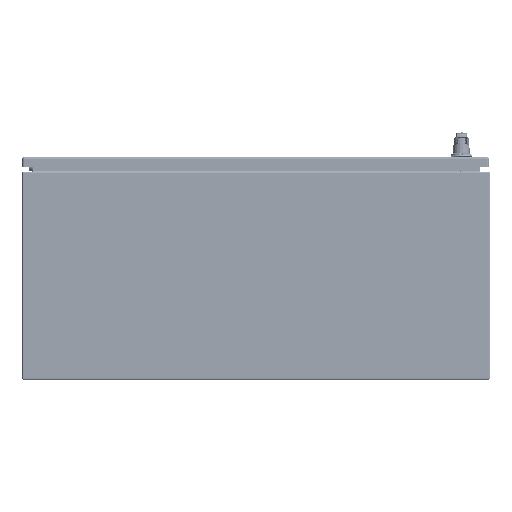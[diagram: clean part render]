
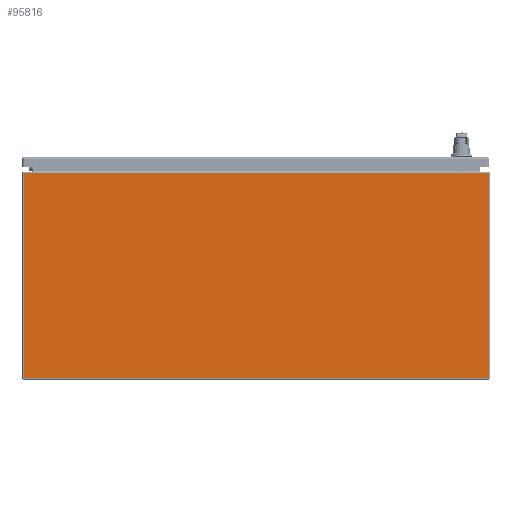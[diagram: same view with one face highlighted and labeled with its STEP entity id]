
A CAD part, front view. The second image highlights one B-rep face of the part: STEP entity #95816.
In plain terms, the highlighted planar face has unit normal (0, -1, 0).
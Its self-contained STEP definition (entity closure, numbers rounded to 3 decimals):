
#8486=LINE('',#136460,#14737);
#8489=LINE('',#136482,#14740);
#8490=LINE('',#136484,#14741);
#8491=LINE('',#136485,#14742);
#14737=VECTOR('',#112021,0.394);
#14740=VECTOR('',#112052,0.394);
#14741=VECTOR('',#112053,0.394);
#14742=VECTOR('',#112054,0.394);
#22571=FACE_OUTER_BOUND('',#28470,.T.);
#28470=EDGE_LOOP('',(#64076,#64077,#64078,#64079));
#39139=VERTEX_POINT('',#136449);
#39142=VERTEX_POINT('',#136459);
#39147=VERTEX_POINT('',#136481);
#39148=VERTEX_POINT('',#136483);
#48807=EDGE_CURVE('',#39139,#39142,#8486,.T.);
#48818=EDGE_CURVE('',#39147,#39139,#8489,.T.);
#48819=EDGE_CURVE('',#39147,#39148,#8490,.T.);
#48820=EDGE_CURVE('',#39142,#39148,#8491,.T.);
#64076=ORIENTED_EDGE('',*,*,#48807,.F.);
#64077=ORIENTED_EDGE('',*,*,#48818,.F.);
#64078=ORIENTED_EDGE('',*,*,#48819,.T.);
#64079=ORIENTED_EDGE('',*,*,#48820,.F.);
#93882=PLANE('',#102841);
#95816=ADVANCED_FACE('',(#22571),#93882,.T.);
#102841=AXIS2_PLACEMENT_3D('',#136480,#112050,#112051);
#112021=DIRECTION('',(1.,0.,0.));
#112050=DIRECTION('center_axis',(0.,-1.,0.));
#112051=DIRECTION('ref_axis',(-1.,0.,0.));
#112052=DIRECTION('',(0.,0.,1.));
#112053=DIRECTION('',(1.,0.,0.));
#112054=DIRECTION('',(0.,0.,-1.));
#136449=CARTESIAN_POINT('',(-17.901,-24.,15.901));
#136459=CARTESIAN_POINT('',(17.901,-24.,15.901));
#136460=CARTESIAN_POINT('',(0.025,-24.,15.901));
#136480=CARTESIAN_POINT('Origin',(18.,-24.,16.));
#136481=CARTESIAN_POINT('',(-17.901,-24.,0.099));
#136482=CARTESIAN_POINT('',(-17.901,-24.,8.));
#136483=CARTESIAN_POINT('',(17.901,-24.,0.099));
#136484=CARTESIAN_POINT('',(-8.951,-24.,0.099));
#136485=CARTESIAN_POINT('',(17.901,-24.,8.));
